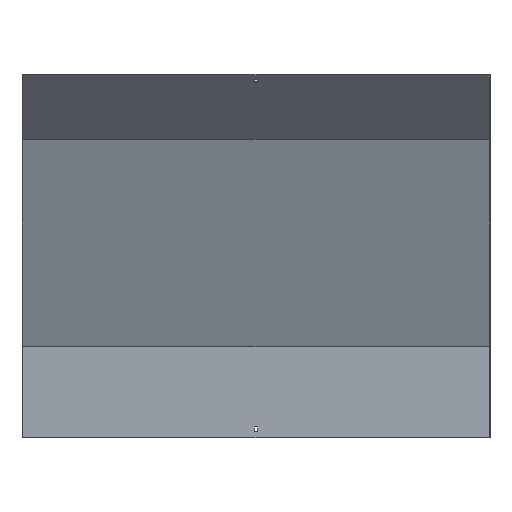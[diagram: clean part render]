
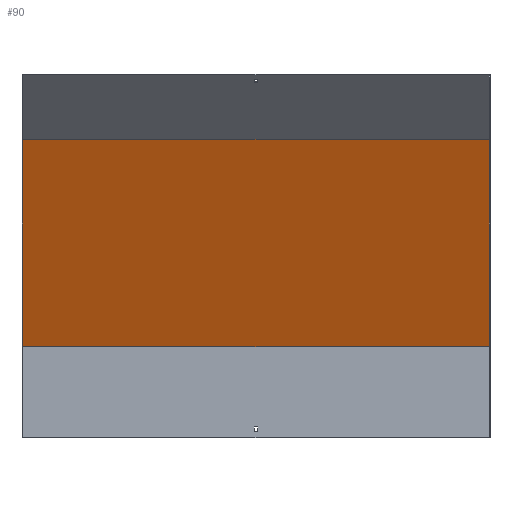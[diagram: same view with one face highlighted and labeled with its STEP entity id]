
A CAD part, front view. The second image highlights one B-rep face of the part: STEP entity #90.
In plain terms, the highlighted planar face has unit normal (0, -0.924, -0.383).
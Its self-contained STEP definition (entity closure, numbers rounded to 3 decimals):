
#10 = DIRECTION ( 'NONE',  ( 0., -0.924, -0.383 ) ) ;
#61 = CARTESIAN_POINT ( 'NONE',  ( 451.5, 17.092, 179.08 ) ) ;
#82 = CARTESIAN_POINT ( 'NONE',  ( -450., -147.34, 576.052 ) ) ;
#90 = ADVANCED_FACE ( 'NONE', ( #424 ), #352, .T. ) ;
#171 = ORIENTED_EDGE ( 'NONE', *, *, #444, .F. ) ;
#175 = LINE ( 'NONE', #447, #197 ) ;
#190 = CARTESIAN_POINT ( 'NONE',  ( 450., 77.903, 32.268 ) ) ;
#197 = VECTOR ( 'NONE', #580, 1000. ) ;
#201 = DIRECTION ( 'NONE',  ( 0., -0.383, 0.924 ) ) ;
#236 = VECTOR ( 'NONE', #461, 1000. ) ;
#244 = LINE ( 'NONE', #393, #351 ) ;
#279 = VERTEX_POINT ( 'NONE', #82 ) ;
#288 = VERTEX_POINT ( 'NONE', #620 ) ;
#316 = ORIENTED_EDGE ( 'NONE', *, *, #825, .T. ) ;
#333 = DIRECTION ( 'NONE',  ( -1., 0., 0. ) ) ;
#351 = VECTOR ( 'NONE', #333, 1000. ) ;
#352 = PLANE ( 'NONE',  #439 ) ;
#366 = CARTESIAN_POINT ( 'NONE',  ( 450., 18.5, 175.68 ) ) ;
#372 = ORIENTED_EDGE ( 'NONE', *, *, #834, .T. ) ;
#393 = CARTESIAN_POINT ( 'NONE',  ( 451.5, 18.5, 175.68 ) ) ;
#396 = VECTOR ( 'NONE', #201, 1000. ) ;
#424 = FACE_OUTER_BOUND ( 'NONE', #761, .T. ) ;
#439 = AXIS2_PLACEMENT_3D ( 'NONE', #61, #10, #662 ) ;
#444 = EDGE_CURVE ( 'NONE', #809, #279, #574, .T. ) ;
#447 = CARTESIAN_POINT ( 'NONE',  ( 451.5, -147.34, 576.052 ) ) ;
#458 = EDGE_CURVE ( 'NONE', #634, #809, #244, .T. ) ;
#461 = DIRECTION ( 'NONE',  ( 0., -0.383, 0.924 ) ) ;
#512 = CARTESIAN_POINT ( 'NONE',  ( -450., 18.5, 175.68 ) ) ;
#515 = CARTESIAN_POINT ( 'NONE',  ( -450., 77.903, 32.268 ) ) ;
#574 = LINE ( 'NONE', #515, #236 ) ;
#580 = DIRECTION ( 'NONE',  ( -1., 0., 0. ) ) ;
#620 = CARTESIAN_POINT ( 'NONE',  ( 450., -147.34, 576.052 ) ) ;
#634 = VERTEX_POINT ( 'NONE', #366 ) ;
#646 = ORIENTED_EDGE ( 'NONE', *, *, #458, .F. ) ;
#662 = DIRECTION ( 'NONE',  ( 0., 0.383, -0.924 ) ) ;
#665 = LINE ( 'NONE', #190, #396 ) ;
#761 = EDGE_LOOP ( 'NONE', ( #171, #646, #372, #316 ) ) ;
#809 = VERTEX_POINT ( 'NONE', #512 ) ;
#825 = EDGE_CURVE ( 'NONE', #288, #279, #175, .T. ) ;
#834 = EDGE_CURVE ( 'NONE', #634, #288, #665, .T. ) ;
